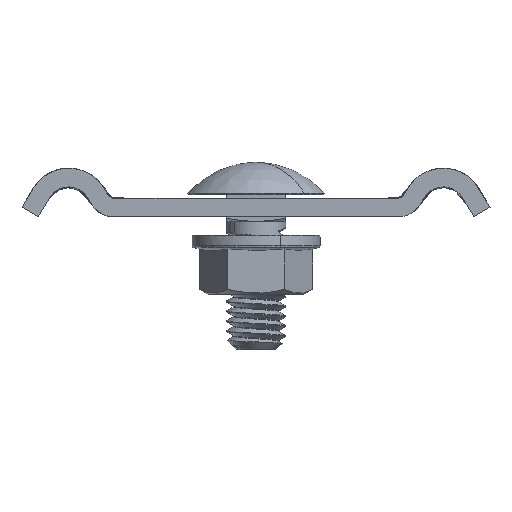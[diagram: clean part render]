
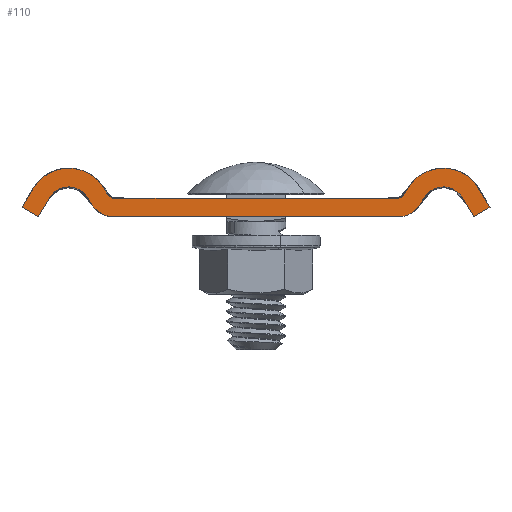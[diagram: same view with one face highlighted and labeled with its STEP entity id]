
A CAD part, front view. The second image highlights one B-rep face of the part: STEP entity #110.
In plain terms, the highlighted planar face has unit normal (0, -1, 0).
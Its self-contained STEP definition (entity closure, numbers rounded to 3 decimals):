
#110=ADVANCED_FACE('',(#205),#1520,.T.);
#205=FACE_OUTER_BOUND('',#303,.T.);
#303=EDGE_LOOP('',(#752,#753,#754,#755,#756));
#752=ORIENTED_EDGE('',*,*,#1031,.T.);
#753=ORIENTED_EDGE('',*,*,#1037,.T.);
#754=ORIENTED_EDGE('',*,*,#1036,.T.);
#755=ORIENTED_EDGE('',*,*,#1035,.T.);
#756=ORIENTED_EDGE('',*,*,#1034,.T.);
#1031=EDGE_CURVE('',#1456,#1461,#1304,.T.);
#1034=EDGE_CURVE('',#1458,#1456,#1306,.T.);
#1035=EDGE_CURVE('',#1459,#1458,#1224,.T.);
#1036=EDGE_CURVE('',#1460,#1459,#1307,.T.);
#1037=EDGE_CURVE('',#1461,#1460,#1225,.T.);
#1224=B_SPLINE_CURVE_WITH_KNOTS('',1,(#9776,#9777),.UNSPECIFIED.,.F.,.F.,
(2,2),(113.932,116.432),.UNSPECIFIED.);
#1225=B_SPLINE_CURVE_WITH_KNOTS('',1,(#9801,#9802),.UNSPECIFIED.,.F.,.F.,
(2,2),(58.137,60.637),.UNSPECIFIED.);
#1304=(
BOUNDED_CURVE()
B_SPLINE_CURVE(2,(#9739,#9740,#9741,#9742,#9743,#9744,#9745,#9746,#9747,
#9748,#9749),.UNSPECIFIED.,.F.,.F.)
B_SPLINE_CURVE_WITH_KNOTS((3,2,2,2,2,3),(47.823,51.455,
51.565,54.678,57.791,58.137),
 .UNSPECIFIED.)
CURVE()
GEOMETRIC_REPRESENTATION_ITEM()
RATIONAL_B_SPLINE_CURVE((1.,0.868,1.,1.,1.,0.868,
1.,0.868,1.,1.,1.))
REPRESENTATION_ITEM('')
);
#1306=(
BOUNDED_CURVE()
B_SPLINE_CURVE(2,(#9763,#9764,#9765,#9766,#9767,#9768,#9769,#9770,#9771,
#9772,#9773,#9774,#9775),.UNSPECIFIED.,.F.,.F.)
B_SPLINE_CURVE_WITH_KNOTS((3,2,2,2,2,2,3),(116.432,116.778,
119.891,123.004,123.114,126.746,164.602),
 .UNSPECIFIED.)
CURVE()
GEOMETRIC_REPRESENTATION_ITEM()
RATIONAL_B_SPLINE_CURVE((1.,1.,1.,0.868,1.,0.868,
1.,1.,1.,0.868,1.,1.,1.))
REPRESENTATION_ITEM('')
);
#1307=(
BOUNDED_CURVE()
B_SPLINE_CURVE(2,(#9778,#9779,#9780,#9781,#9782,#9783,#9784,#9785,#9786,
#9787,#9788,#9789,#9790,#9791,#9792,#9793,#9794,#9795,#9796,#9797,#9798,
#9799,#9800),.UNSPECIFIED.,.F.,.F.)
B_SPLINE_CURVE_WITH_KNOTS((3,2,2,2,2,2,2,2,2,2,2,3),(60.637,60.983,
64.096,67.209,67.319,68.357,106.213,
107.25,107.36,110.473,113.586,113.932),
 .UNSPECIFIED.)
CURVE()
GEOMETRIC_REPRESENTATION_ITEM()
RATIONAL_B_SPLINE_CURVE((1.,1.,1.,0.868,1.,0.868,
1.,1.,1.,0.868,1.,1.,1.,0.868,1.,1.,1.,0.868,
1.,0.868,1.,1.,1.))
REPRESENTATION_ITEM('')
);
#1456=VERTEX_POINT('',#9721);
#1458=VERTEX_POINT('',#9723);
#1459=VERTEX_POINT('',#9724);
#1460=VERTEX_POINT('',#9725);
#1461=VERTEX_POINT('',#9726);
#1520=PLANE('',#1699);
#1699=AXIS2_PLACEMENT_3D('',#9619,#1752,$);
#1752=DIRECTION('',(0.,-1.,0.));
#9619=CARTESIAN_POINT('',(-31.239,-25.,0.));
#9721=CARTESIAN_POINT('',(18.916,-25.,0.));
#9723=CARTESIAN_POINT('',(-29.086,-25.,0.));
#9724=CARTESIAN_POINT('',(-31.239,-25.,1.271));
#9725=CARTESIAN_POINT('',(31.215,-25.,1.271));
#9726=CARTESIAN_POINT('',(29.062,-25.,0.));
#9739=CARTESIAN_POINT('',(18.916,-25.,0.));
#9740=CARTESIAN_POINT('',(20.914,-25.,0.));
#9741=CARTESIAN_POINT('',(21.93,-25.,1.721));
#9742=CARTESIAN_POINT('',(22.167,-25.,2.123));
#9743=CARTESIAN_POINT('',(22.405,-25.,2.525));
#9744=CARTESIAN_POINT('',(23.275,-25.,4.));
#9745=CARTESIAN_POINT('',(24.988,-25.,4.));
#9746=CARTESIAN_POINT('',(26.701,-25.,4.));
#9747=CARTESIAN_POINT('',(27.572,-25.,2.525));
#9748=CARTESIAN_POINT('',(28.317,-25.,1.262));
#9749=CARTESIAN_POINT('',(29.062,-25.,0.));
#9763=CARTESIAN_POINT('',(-29.086,-25.,0.));
#9764=CARTESIAN_POINT('',(-28.34,-25.,1.262));
#9765=CARTESIAN_POINT('',(-27.595,-25.,2.525));
#9766=CARTESIAN_POINT('',(-26.725,-25.,4.));
#9767=CARTESIAN_POINT('',(-25.012,-25.,4.));
#9768=CARTESIAN_POINT('',(-23.299,-25.,4.));
#9769=CARTESIAN_POINT('',(-22.428,-25.,2.525));
#9770=CARTESIAN_POINT('',(-22.191,-25.,2.123));
#9771=CARTESIAN_POINT('',(-21.954,-25.,1.721));
#9772=CARTESIAN_POINT('',(-20.938,-25.,0.));
#9773=CARTESIAN_POINT('',(-18.94,-25.,0.));
#9774=CARTESIAN_POINT('',(-0.012,-25.,0.));
#9775=CARTESIAN_POINT('',(18.916,-25.,0.));
#9776=CARTESIAN_POINT('',(-31.239,-25.,1.271));
#9777=CARTESIAN_POINT('',(-29.086,-25.,0.));
#9778=CARTESIAN_POINT('',(31.215,-25.,1.271));
#9779=CARTESIAN_POINT('',(30.47,-25.,2.533));
#9780=CARTESIAN_POINT('',(29.725,-25.,3.795));
#9781=CARTESIAN_POINT('',(28.129,-25.,6.5));
#9782=CARTESIAN_POINT('',(24.988,-25.,6.5));
#9783=CARTESIAN_POINT('',(21.848,-25.,6.5));
#9784=CARTESIAN_POINT('',(20.251,-25.,3.795));
#9785=CARTESIAN_POINT('',(20.014,-25.,3.394));
#9786=CARTESIAN_POINT('',(19.777,-25.,2.992));
#9787=CARTESIAN_POINT('',(19.487,-25.,2.5));
#9788=CARTESIAN_POINT('',(18.916,-25.,2.5));
#9789=CARTESIAN_POINT('',(-0.012,-25.,2.5));
#9790=CARTESIAN_POINT('',(-18.94,-25.,2.5));
#9791=CARTESIAN_POINT('',(-19.511,-25.,2.5));
#9792=CARTESIAN_POINT('',(-19.801,-25.,2.992));
#9793=CARTESIAN_POINT('',(-20.038,-25.,3.394));
#9794=CARTESIAN_POINT('',(-20.275,-25.,3.795));
#9795=CARTESIAN_POINT('',(-21.871,-25.,6.5));
#9796=CARTESIAN_POINT('',(-25.012,-25.,6.5));
#9797=CARTESIAN_POINT('',(-28.152,-25.,6.5));
#9798=CARTESIAN_POINT('',(-29.749,-25.,3.795));
#9799=CARTESIAN_POINT('',(-30.494,-25.,2.533));
#9800=CARTESIAN_POINT('',(-31.239,-25.,1.271));
#9801=CARTESIAN_POINT('',(29.062,-25.,0.));
#9802=CARTESIAN_POINT('',(31.215,-25.,1.271));
